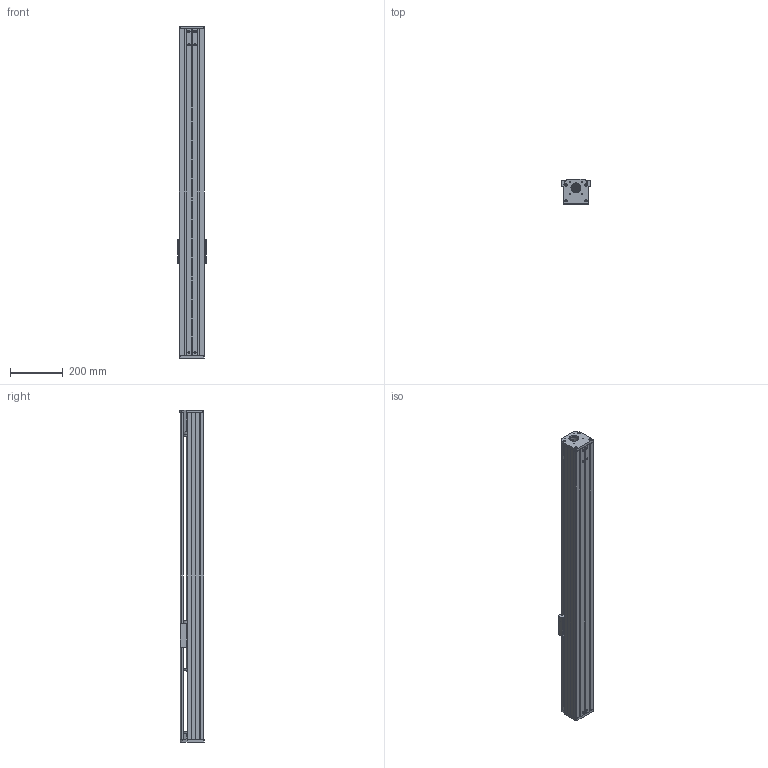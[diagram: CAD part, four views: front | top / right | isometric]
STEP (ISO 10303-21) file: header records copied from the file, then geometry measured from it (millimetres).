
FILE_DESCRIPTION (( 'STEP AP203' ), '1' );
FILE_NAME ('CF95-1-P1000.STEP', '2016-02-23T03:00:56', ( 'Sky123.Org' ), ( 'Sky123.Org' ), 'SwSTEP 2.0', 'SolidWorks 2015', '' );
FILE_SCHEMA (( 'CONFIG_CONTROL_DESIGN' ));
Length unit declared in the file: millimetre
Products named in the file (18): 95耜啣; CF-HGW20CA; circlips for shaft--type a large gb_GB_CONNECTING_PIECE_RING_RRA 12; 95滅袉蝶菜; CF95固定座（配30-42联轴器）; 95盓厥傷; 95粣創裔啣; CF95-1-P1000; 95裔啣-1-750; SFU1605-3; 95臏倰第-1-750; 95賑輸; CF-HGR20絳寢-750; deep groove ball bearings gb_Rolling bearings 6001 GB 276-94; SFS1605-750; angular contact ball bearings gb_Rolling bearings S7001 GB 292-94; CF95-57步进电机座（配30-42联轴器）; 坶踡蹟譫M12-1
Assembly tree (19 placements, depth 2):
  CF95-1-P1000
    CF-HGW20CA
    95滅袉蝶菜  x2
    95粣創裔啣
    SFU1605-3
    95賑輸
    deep groove ball bearings gb_Rolling bearings 6001 GB 276-94
    angular contact ball bearings gb_Rolling bearings S7001 GB 292-94  x2
    坶踡蹟譫M12-1
    95耜啣
    circlips for shaft--type a large gb_GB_CONNECTING_PIECE_RING_RRA 12
    95盓厥傷
    95裔啣-1-750
    95臏倰第-1-750
    CF-HGR20絳寢-750
    SFS1605-750
    CF95-57步进电机座（配30-42联轴器）
    CF95固定座（配30-42联轴器）
Bounding box: 110 x 92.9 x 1261 mm (x, y, z)
Volume: 3941961.1 mm3; surface area: 1258208.3 mm2
Topology: 19 solids, 19 shells, 1091 faces, 3614 edges, 2415 vertices
Faces by surface type: cylinder 456, plane 387, torus 159, sphere 84, cone 4, bspline 1
Entity records: 40623 total; most frequent: CARTESIAN_POINT 12083, ORIENTED_EDGE 5872, DIRECTION 5370, EDGE_CURVE 2936, AXIS2_PLACEMENT_3D 2055, VERTEX_POINT 1958, VECTOR 1260, LINE 1260
